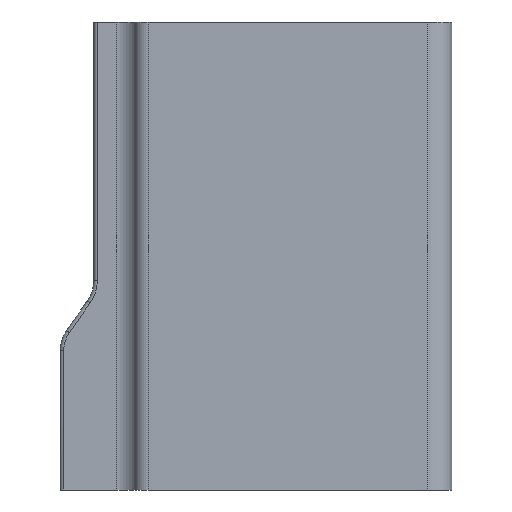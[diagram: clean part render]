
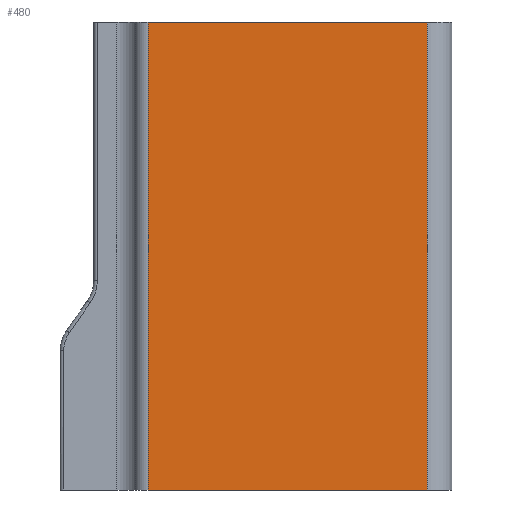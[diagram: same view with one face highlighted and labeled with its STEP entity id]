
A CAD part, front view. The second image highlights one B-rep face of the part: STEP entity #480.
In plain terms, the highlighted planar face has unit normal (0, -1, 0).
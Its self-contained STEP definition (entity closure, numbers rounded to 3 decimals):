
#20=PLANE('',#511);
#32=FACE_OUTER_BOUND('',#59,.T.);
#59=EDGE_LOOP('',(#323,#324,#325,#326));
#86=LINE('',#730,#126);
#88=LINE('',#736,#128);
#89=LINE('',#738,#129);
#90=LINE('',#739,#130);
#126=VECTOR('',#572,10.);
#128=VECTOR('',#578,10.);
#129=VECTOR('',#579,10.);
#130=VECTOR('',#580,10.);
#198=VERTEX_POINT('',#727);
#199=VERTEX_POINT('',#729);
#201=VERTEX_POINT('',#735);
#202=VERTEX_POINT('',#737);
#247=EDGE_CURVE('',#198,#199,#86,.T.);
#250=EDGE_CURVE('',#198,#201,#88,.T.);
#251=EDGE_CURVE('',#201,#202,#89,.T.);
#252=EDGE_CURVE('',#199,#202,#90,.T.);
#323=ORIENTED_EDGE('',*,*,#250,.T.);
#324=ORIENTED_EDGE('',*,*,#251,.T.);
#325=ORIENTED_EDGE('',*,*,#252,.F.);
#326=ORIENTED_EDGE('',*,*,#247,.F.);
#480=ADVANCED_FACE('',(#32),#20,.T.);
#511=AXIS2_PLACEMENT_3D('',#734,#576,#577);
#572=DIRECTION('',(0.,0.,-1.));
#576=DIRECTION('center_axis',(0.,-1.,0.));
#577=DIRECTION('ref_axis',(1.,0.,0.));
#578=DIRECTION('',(-1.,0.,0.));
#579=DIRECTION('',(0.,0.,-1.));
#580=DIRECTION('',(-1.,0.,0.));
#727=CARTESIAN_POINT('',(78.5,-2.5,131.));
#729=CARTESIAN_POINT('',(78.5,-2.5,-1.));
#730=CARTESIAN_POINT('',(78.5,-2.5,0.));
#734=CARTESIAN_POINT('Origin',(-0.2,-2.5,0.));
#735=CARTESIAN_POINT('',(-0.2,-2.5,131.));
#736=CARTESIAN_POINT('',(17.663,-2.5,131.));
#737=CARTESIAN_POINT('',(-0.2,-2.5,-1.));
#738=CARTESIAN_POINT('',(-0.2,-2.5,10.));
#739=CARTESIAN_POINT('',(15.025,-2.5,-1.));
